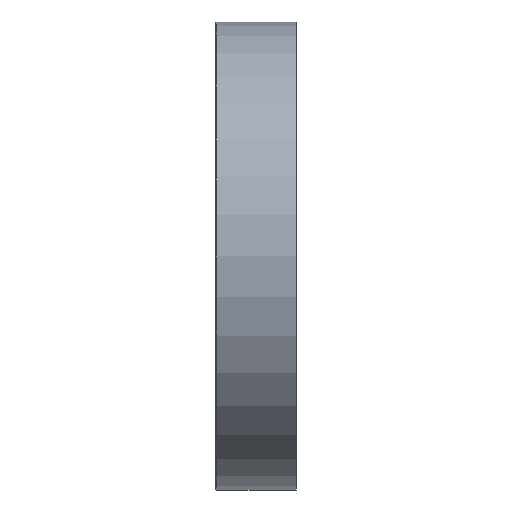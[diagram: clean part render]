
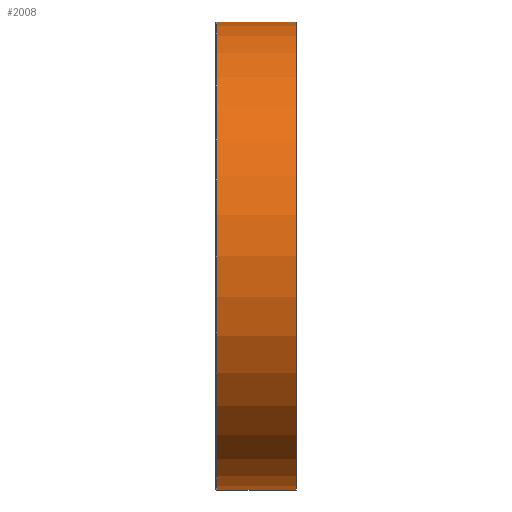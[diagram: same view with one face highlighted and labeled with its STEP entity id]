
A CAD part, left-side view. The second image highlights one B-rep face of the part: STEP entity #2008.
In plain terms, the highlighted cylindrical face has radius 40.5 mm (diameter 81 mm), a partial arc.
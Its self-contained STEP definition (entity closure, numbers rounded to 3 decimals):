
#108 = CYLINDRICAL_SURFACE ( 'NONE', #12954, 40.5 ) ;
#797 = VECTOR ( 'NONE', #9973, 1000. ) ;
#1034 = CARTESIAN_POINT ( 'NONE',  ( 0., 11.8, -40.5 ) ) ;
#1090 = CARTESIAN_POINT ( 'NONE',  ( 0., -2., -40.5 ) ) ;
#1254 = CARTESIAN_POINT ( 'NONE',  ( 0., -2., 0. ) ) ;
#1271 = EDGE_CURVE ( 'NONE', #13314, #9257, #9824, .T. ) ;
#2008 = ADVANCED_FACE ( 'NONE', ( #13381 ), #108, .T. ) ;
#2018 = EDGE_LOOP ( 'NONE', ( #2734, #3026, #4375, #8307 ) ) ;
#2215 = DIRECTION ( 'NONE',  ( 0., 0., -1. ) ) ;
#2353 = CARTESIAN_POINT ( 'NONE',  ( 0., 12., 40.5 ) ) ;
#2499 = LINE ( 'NONE', #2353, #6992 ) ;
#2734 = ORIENTED_EDGE ( 'NONE', *, *, #8311, .F. ) ;
#2799 = EDGE_CURVE ( 'NONE', #10270, #7064, #8881, .T. ) ;
#3026 = ORIENTED_EDGE ( 'NONE', *, *, #1271, .T. ) ;
#3215 = CARTESIAN_POINT ( 'NONE',  ( 0., 12., 0. ) ) ;
#4036 = CARTESIAN_POINT ( 'NONE',  ( 0., 12., -40.5 ) ) ;
#4375 = ORIENTED_EDGE ( 'NONE', *, *, #9789, .T. ) ;
#4626 = DIRECTION ( 'NONE',  ( 0., 0., -1. ) ) ;
#5767 = DIRECTION ( 'NONE',  ( 0., -1., 0. ) ) ;
#6254 = AXIS2_PLACEMENT_3D ( 'NONE', #1254, #14688, #2215 ) ;
#6553 = CARTESIAN_POINT ( 'NONE',  ( 0., 11.8, 0. ) ) ;
#6756 = CARTESIAN_POINT ( 'NONE',  ( 0., -2., 40.5 ) ) ;
#6992 = VECTOR ( 'NONE', #5767, 1000. ) ;
#7064 = VERTEX_POINT ( 'NONE', #1090 ) ;
#7980 = DIRECTION ( 'NONE',  ( 0., -1., 0. ) ) ;
#8307 = ORIENTED_EDGE ( 'NONE', *, *, #2799, .F. ) ;
#8311 = EDGE_CURVE ( 'NONE', #13314, #10270, #2499, .T. ) ;
#8790 = LINE ( 'NONE', #4036, #797 ) ;
#8881 = CIRCLE ( 'NONE', #6254, 40.5 ) ;
#9257 = VERTEX_POINT ( 'NONE', #1034 ) ;
#9789 = EDGE_CURVE ( 'NONE', #9257, #7064, #8790, .T. ) ;
#9824 = CIRCLE ( 'NONE', #11832, 40.5 ) ;
#9973 = DIRECTION ( 'NONE',  ( 0., -1., 0. ) ) ;
#10049 = DIRECTION ( 'NONE',  ( 0., -1., 0. ) ) ;
#10270 = VERTEX_POINT ( 'NONE', #6756 ) ;
#11596 = CARTESIAN_POINT ( 'NONE',  ( 0., 11.8, 40.5 ) ) ;
#11832 = AXIS2_PLACEMENT_3D ( 'NONE', #6553, #10049, #13676 ) ;
#12954 = AXIS2_PLACEMENT_3D ( 'NONE', #3215, #7980, #4626 ) ;
#13314 = VERTEX_POINT ( 'NONE', #11596 ) ;
#13381 = FACE_OUTER_BOUND ( 'NONE', #2018, .T. ) ;
#13676 = DIRECTION ( 'NONE',  ( 0., 0., 1. ) ) ;
#14688 = DIRECTION ( 'NONE',  ( 0., -1., 0. ) ) ;
